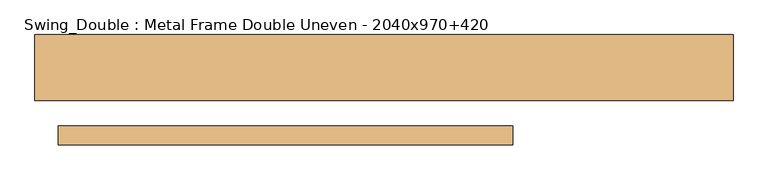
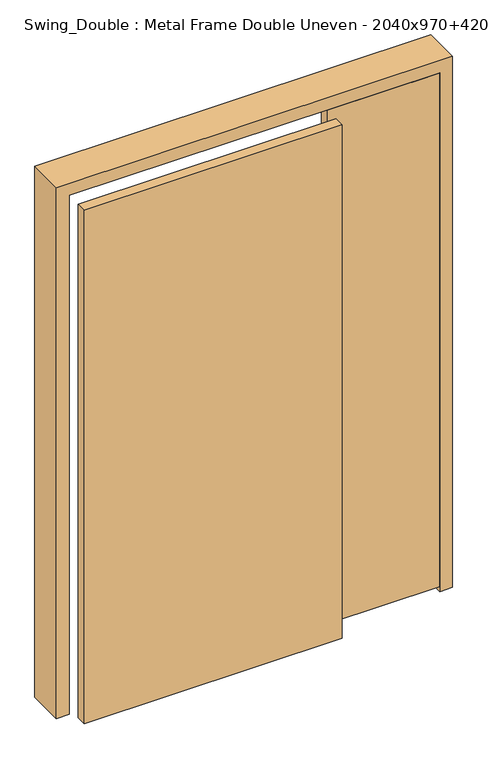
"""IFC4 building model written with IfcOpenShell, lengths in millimetres: door geometry, Swing_Double : Metal Frame Double Uneven - 2040x970+420."""

import ifcopenshell
import ifcopenshell.guid

model = None  # the IFC model being written
_history = None  # IfcOwnerHistory: only IFC2X3 demands one
_inside = {}  # id of a spatial element -> (the spatial element, [elements in it])
_under = {}  # id of a project, library or spatial element -> (it, [spatial elements below it])
_declared = {}  # id of a project -> (the project, [libraries it declares])
_typed = {}  # id of a type object -> (the type object, [elements of that type])
_made_of = {}  # id of a material, layer set ... -> (it, [elements and type objects made of it])


def new_model(schema):
    """Start an empty IFC model of exactly this schema.

    Asked for "IFC4X3", IfcOpenShell would pick the latest addendum, in which some entities
    have other attributes; the version numbers below select the first issue.
    IFC2X3 requires an IfcOwnerHistory on every rooted entity: one is made here for all.
    """
    global model, _history
    if schema == "IFC4X3":
        model = ifcopenshell.file(schema_version=(4, 3, 0, 0))
    else:
        model = ifcopenshell.file(schema=schema)
    _inside.clear()
    _under.clear()
    _declared.clear()
    _typed.clear()
    _made_of.clear()
    _history = None
    if model.schema == "IFC2X3":
        org = make("IfcOrganization", Name="unknown")
        user = make(
            "IfcPersonAndOrganization",
            ThePerson=make("IfcPerson", FamilyName="unknown"),
            TheOrganization=org,
        )
        app = make(
            "IfcApplication",
            ApplicationDeveloper=org,
            Version="unknown",
            ApplicationFullName="unknown",
            ApplicationIdentifier="unknown",
        )
        _history = make(
            "IfcOwnerHistory",
            OwningUser=user,
            OwningApplication=app,
            ChangeAction="ADDED",
            CreationDate=0,
        )
    return model


def make(cls, **values):
    """One entity of the class cls with the attributes given. An attribute that is None is left unset."""
    return model.create_entity(
        cls, **{name: value for name, value in values.items() if value is not None}
    )


def rooted(cls, **values):
    """An entity with a GlobalId (a new one), such as an element, a storey or a relation."""
    return make(cls, GlobalId=ifcopenshell.guid.new(), OwnerHistory=_history, **values)


def si_unit(unit_type, name, prefix=None):
    """IfcSIUnit, for example si_unit("LENGTHUNIT", "METRE", prefix="MILLI")."""
    return make("IfcSIUnit", UnitType=unit_type, Prefix=prefix, Name=name)


def assignment(units):
    """IfcUnitAssignment: the units of a project."""
    return None if units is None else make("IfcUnitAssignment", Units=units)


def point(xyz):
    """IfcCartesianPoint."""
    return None if xyz is None else make("IfcCartesianPoint", Coordinates=xyz)


def direction(xyz):
    """IfcDirection."""
    return None if xyz is None else make("IfcDirection", DirectionRatios=xyz)


def frame(location, z_axis=None, x_axis=None):
    """IfcAxis2Placement3D, a coordinate frame: its origin and axes. An axis left out is left unset."""
    return make(
        "IfcAxis2Placement3D",
        Location=point(location),
        Axis=direction(z_axis),
        RefDirection=direction(x_axis),
    )


def origin():
    """The frame at (0, 0, 0) with its axes left unset."""
    return frame((0.0, 0.0, 0.0))


def place(relative_to, where):
    """IfcLocalPlacement: puts the frame where relative to a parent placement (None: the world)."""
    return make(
        "IfcLocalPlacement", PlacementRelTo=relative_to, RelativePlacement=where
    )


def context(
    kind, dimensions, precision=None, world=None, true_north=None, identifier=None
):
    """IfcGeometricRepresentationContext, for example the 3D "Model" context."""
    return make(
        "IfcGeometricRepresentationContext",
        ContextIdentifier=identifier,
        ContextType=kind,
        CoordinateSpaceDimension=dimensions,
        Precision=precision,
        WorldCoordinateSystem=world,
        TrueNorth=true_north,
    )


def project(units=None, contexts=None):
    """IfcProject with its units and contexts."""
    return rooted(
        "IfcProject",
        Name="project",
        RepresentationContexts=contexts,
        UnitsInContext=assignment(units),
    )


def spatial(cls, under=None, at=None, **own):
    """A site, building, storey or space (cls), placed at a placement, below another one or the project."""
    s = rooted(cls, ObjectPlacement=at, **own)
    if under is not None:
        _under.setdefault(under.id(), (under, []))[1].append(s)
    return s


def polyline(points):
    """IfcPolyline through the points."""
    return make("IfcPolyline", Points=[point(p) for p in points])


def outline(outer, holes=None, kind="AREA"):
    """IfcArbitraryClosedProfileDef: a profile drawn as a closed curve; with holes, ...WithVoids."""
    if holes is None:
        return make("IfcArbitraryClosedProfileDef", ProfileType=kind, OuterCurve=outer)
    return make(
        "IfcArbitraryProfileDefWithVoids",
        ProfileType=kind,
        OuterCurve=outer,
        InnerCurves=holes,
    )


def extrude(swept, where, along, depth):
    """IfcExtrudedAreaSolid: the profile swept, set in the frame where, extruded along a direction by depth."""
    return make(
        "IfcExtrudedAreaSolid",
        SweptArea=swept,
        Position=where,
        ExtrudedDirection=direction(along),
        Depth=depth,
    )


def faces_of(points, faces, orient=None, outer=None):
    """IfcFace entities. A face is a list of loops; a loop is a list of indices into points, from 0.

    orient and outer hold one flag for each loop. By default every Orientation is true, the
    first loop of a face is its IfcFaceOuterBound and the others are IfcFaceBound.
    """
    made = []
    for i, loops in enumerate(faces):
        bounds = []
        for j, loop in enumerate(loops):
            is_outer = j == 0 if outer is None else outer[i][j]
            bounds.append(
                make(
                    "IfcFaceOuterBound" if is_outer else "IfcFaceBound",
                    Bound=make("IfcPolyLoop", Polygon=[points[k] for k in loop]),
                    Orientation=True if orient is None else orient[i][j],
                )
            )
        made.append(make("IfcFace", Bounds=bounds))
    return made


def faceted_brep(points, faces, orient=None, outer=None, voids=None):
    """IfcFacetedBrep: a solid bounded by flat faces; with voids (closed shells), ...WithVoids."""
    shared = [point(p) for p in points]
    hull = make("IfcClosedShell", CfsFaces=faces_of(shared, faces, orient, outer))
    if voids is None:
        return make("IfcFacetedBrep", Outer=hull)
    return make(
        "IfcFacetedBrepWithVoids",
        Outer=hull,
        Voids=[
            make(cls, CfsFaces=faces_of(shared, fs, o, b)) for cls, fs, o, b in voids
        ],
    )


def shape(context_of_items, identifier, shape_type, items):
    """IfcShapeRepresentation: the items that make up one representation, for example the "Body"."""
    return make(
        "IfcShapeRepresentation",
        ContextOfItems=context_of_items,
        RepresentationIdentifier=identifier,
        RepresentationType=shape_type,
        Items=items,
    )


def source(mapping_origin, context_of_items, identifier, shape_type, items):
    """IfcRepresentationMap: a shape defined once, which mapped items show again and again."""
    return make(
        "IfcRepresentationMap",
        MappingOrigin=mapping_origin,
        MappedRepresentation=shape(context_of_items, identifier, shape_type, items),
    )


def transform(
    local_origin,
    x_axis=None,
    y_axis=None,
    z_axis=None,
    scale=None,
    scale2=None,
    scale3=None,
    uniform=True,
):
    """IfcCartesianTransformationOperator3D, or its non-uniform kind. x_axis, y_axis, z_axis: its Axis1, 2, 3."""
    if uniform:
        return make(
            "IfcCartesianTransformationOperator3D",
            Axis1=direction(x_axis),
            Axis2=direction(y_axis),
            LocalOrigin=point(local_origin),
            Scale=scale,
            Axis3=direction(z_axis),
        )
    return make(
        "IfcCartesianTransformationOperator3DnonUniform",
        Axis1=direction(x_axis),
        Axis2=direction(y_axis),
        LocalOrigin=point(local_origin),
        Scale=scale,
        Axis3=direction(z_axis),
        Scale2=scale2,
        Scale3=scale3,
    )


def mapped(mapping_source, mapping_target):
    """IfcMappedItem: shows the shape of a source again, moved by a transform."""
    return make(
        "IfcMappedItem", MappingSource=mapping_source, MappingTarget=mapping_target
    )


def made_of(thing, what):
    """Note that an element or type object is made of a material, layer set ...; save() writes the relation."""
    if what is not None:
        _made_of.setdefault(what.id(), (what, []))[1].append(thing)
    return thing


def element(
    cls,
    number,
    at=None,
    inside=None,
    cuts=None,
    type_object=None,
    material=None,
    context=None,
    identifier="Body",
    shape_type=None,
    held_by="IfcProductDefinitionShape",
    body=None,
    shapes=None,
    **own,
):
    """One element of the class cls, such as IfcWall. Its Tag is "e" and its number.

    at: its placement. inside: the storey or other place that contains it. cuts: it is an
    opening in that element (IfcRelVoidsElement). A single representation is given by context,
    identifier, shape_type and body (its items); several are given by shapes. held_by: the class
    of the entity that holds the representations. save() writes the other relations.
    """
    e = rooted(cls, Tag="e%d" % number, ObjectPlacement=at, **own)
    if body is not None:
        shapes = [shape(context, identifier, shape_type, body)]
    if shapes is not None:
        e.Representation = make(held_by, Representations=shapes)
    if inside is not None:
        _inside.setdefault(inside.id(), (inside, []))[1].append(e)
    if cuts is not None:
        rooted(
            "IfcRelVoidsElement", RelatingBuildingElement=cuts, RelatedOpeningElement=e
        )
    if type_object is not None:
        _typed.setdefault(type_object.id(), (type_object, []))[1].append(e)
    return made_of(e, material)


def aggregate(whole, parts):
    """IfcRelAggregates: a whole, such as a stair, and the parts it consists of."""
    return rooted("IfcRelAggregates", RelatingObject=whole, RelatedObjects=parts)


def save(model, path):
    """Write the relations noted so far, then the file.

    IfcRelAggregates (storeys below a building ...), IfcRelContainedInSpatialStructure (elements
    in a storey), IfcRelDefinesByType, IfcRelAssociatesMaterial and IfcRelDeclares: one each for
    every whole, place, type object, material and project.
    """
    for whole, parts in _under.values():
        aggregate(whole, parts)
    for where, things in _inside.values():
        rooted(
            "IfcRelContainedInSpatialStructure",
            RelatedElements=things,
            RelatingStructure=where,
        )
    for kind, things in _typed.values():
        rooted("IfcRelDefinesByType", RelatedObjects=things, RelatingType=kind)
    for what, things in _made_of.values():
        rooted("IfcRelAssociatesMaterial", RelatedObjects=things, RelatingMaterial=what)
    for by, libraries in _declared.values():
        rooted("IfcRelDeclares", RelatingContext=by, RelatedDefinitions=libraries)
    model.write(path)


def swing_double_metal_frame_double_uneven_2040x970_420_093d1636(model_context):
    return source(origin(), model_context, "Body", "SolidModel", [
        extrude(outline(polyline([(63.5, -70.0), (63.5, -30.0), (483.5, -30.0), (483.5, -70.0), (63.5, -70.0)])), frame((0.0, 0.0, 20.0), z_axis=(0.0, 0.0, 1.0), x_axis=(1.0, 0.0, 0.0)), (0.0, 0.0, 1.0), 2040.0),
        extrude(outline(polyline([(63.5, -165.0), (-906.5, -165.0), (-906.5, -125.0), (63.5, -125.0), (63.5, -165.0)])), frame((0.0, 0.0, 20.0), z_axis=(0.0, 0.0, 1.0), x_axis=(1.0, 0.0, 0.0)), (0.0, 0.0, 1.0), 2040.0),
        faceted_brep([(533.5, 70.0, 0.0), (533.5, -70.0, 0.0), (485.5, -70.0, 0.0), (485.5, -28.0, 0.0), (465.5, -28.0, 0.0), (465.5, 70.0, 0.0), (465.5, 70.0, 2042.0), (-888.5, 70.0, 2042.0), (-888.5, 70.0, 0.0), (-956.5, 70.0, 0.0), (-956.5, 70.0, 2110.0), (533.5, 70.0, 2110.0), (465.5, -28.0, 2042.0), (485.5, -28.0, 2062.0), (-908.5, -28.0, 2062.0), (-908.5, -28.0, 0.0), (-888.5, -28.0, 0.0), (-888.5, -28.0, 2042.0), (485.5, -70.0, 2062.0), (533.5, -70.0, 2110.0), (-956.5, -70.0, 2110.0), (-956.5, -70.0, 0.0), (-908.5, -70.0, 0.0), (-908.5, -70.0, 2062.0)], [[[0, 1, 2, 3, 4, 5]], [[5, 6, 7, 8, 9, 10, 11, 0]], [[4, 12, 6, 5]], [[3, 13, 14, 15, 16, 17, 12, 4]], [[2, 18, 13, 3]], [[1, 19, 20, 21, 22, 23, 18, 2]], [[0, 11, 19, 1]], [[23, 22, 15, 14]], [[9, 8, 16, 15, 22, 21]], [[10, 9, 21, 20]], [[17, 16, 8, 7]], [[11, 10, 20, 19]], [[18, 23, 14, 13]], [[12, 17, 7, 6]]]),
    ])


if __name__ == "__main__":
    model = new_model("IFC4")
    model_context = context("Model", 3, world=origin())
    ifc_project = project(units=[si_unit("LENGTHUNIT", "METRE", prefix="MILLI")], contexts=[model_context])
    site = spatial("IfcSite", under=ifc_project)
    building = spatial("IfcBuilding", under=site)
    placement = place(None, origin())
    swing_double_metal_frame_double_uneven_2040x970_420_shape = swing_double_metal_frame_double_uneven_2040x970_420_093d1636(model_context)
    element("IfcDoor", 1, ObjectType="Swing_Double : Metal Frame Double Uneven - 2040x970+420", at=placement, inside=building, context=model_context, shape_type="MappedRepresentation", body=[
        mapped(swing_double_metal_frame_double_uneven_2040x970_420_shape, transform((0.0, 0.0, 0.0), x_axis=(1.0, 0.0, 0.0), y_axis=(0.0, 1.0, 0.0), z_axis=(0.0, 0.0, 1.0))),
    ])
    save(model, "model.ifc")
